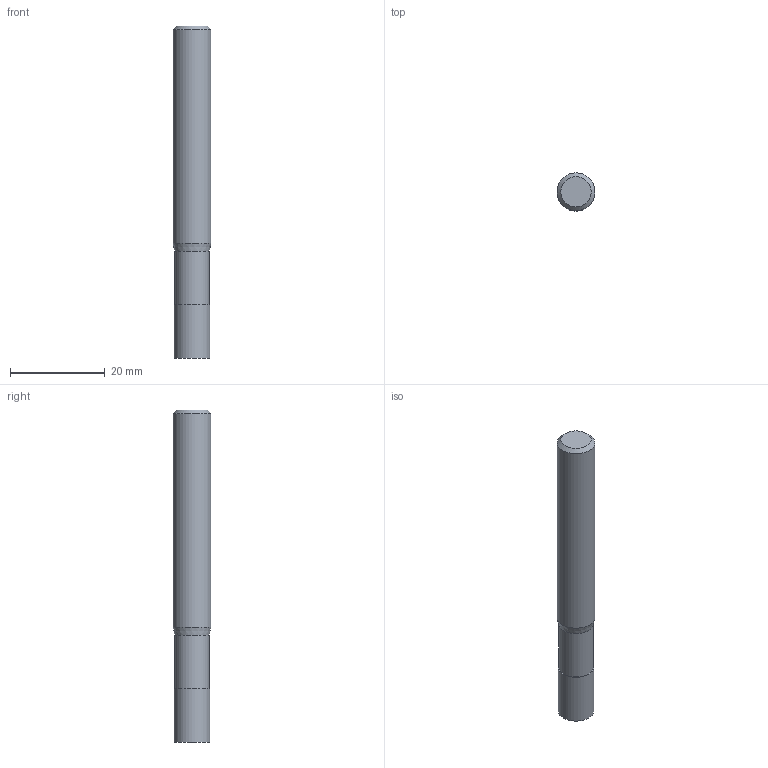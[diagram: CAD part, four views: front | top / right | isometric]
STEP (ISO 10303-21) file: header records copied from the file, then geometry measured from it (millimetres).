
FILE_DESCRIPTION((''),'2;1');
FILE_NAME('C:\Users\nsx150\AppData\Local\Temp\Mastercam 2021\EUJSUNXURU\TEMP.step','2021-04-22T10:29:14',(''),(''),'STEP Write','Mastercam 2021 ... CNC Software, Inc.','');
FILE_SCHEMA(('AUTOMOTIVE_DESIGN'));
Length unit declared in the file: millimetre
Products named in the file (1): None
Bounding box: 8 x 8 x 70 mm (x, y, z)
Volume: 3341.1 mm3; surface area: 1883.9 mm2
Topology: 2 solids, 2 shells, 9 faces, 12 edges, 7 vertices
Faces by surface type: plane 4, cylinder 3, cone 2
Full cylindrical faces by diameter (mm): 7.3 x1, 7.5 x1, 8 x1
Entity records: 211 total; most frequent: DIRECTION 36, CARTESIAN_POINT 25, AXIS2_PLACEMENT_3D 18, ORIENTED_EDGE 14, EDGE_LOOP 14, STYLED_ITEM 12, ADVANCED_FACE 9, FACE_BOUND 8
